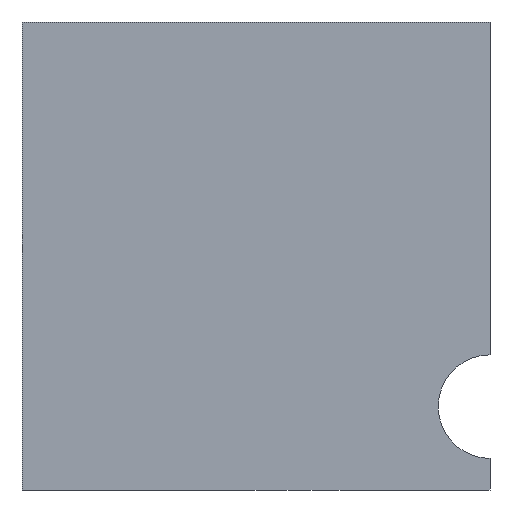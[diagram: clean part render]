
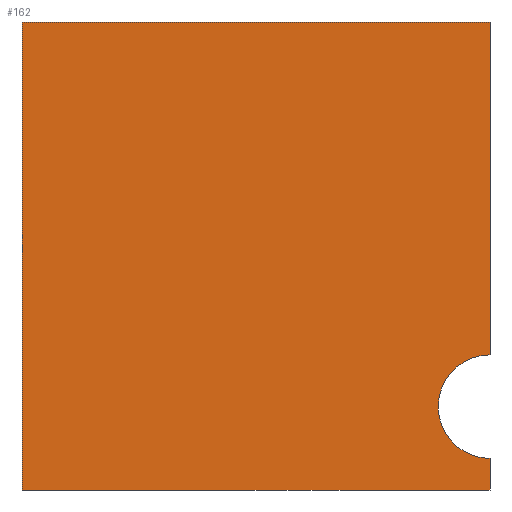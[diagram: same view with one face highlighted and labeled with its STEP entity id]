
A CAD part, left-side view. The second image highlights one B-rep face of the part: STEP entity #162.
In plain terms, the highlighted planar face has unit normal (-1, 0, 0).
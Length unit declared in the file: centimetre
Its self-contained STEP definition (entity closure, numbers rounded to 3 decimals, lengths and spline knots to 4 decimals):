
#2 = LINE ( 'NONE', #36, #261 ) ;
#13 = DIRECTION ( 'NONE',  ( 0., 0., -1. ) ) ;
#17 = CARTESIAN_POINT ( 'NONE',  ( 0., 0., 1000. ) ) ;
#36 = CARTESIAN_POINT ( 'NONE',  ( 0., 1000., 0. ) ) ;
#38 = VECTOR ( 'NONE', #75, 100. ) ;
#39 = EDGE_CURVE ( 'NONE', #330, #180, #2, .T. ) ;
#44 = CARTESIAN_POINT ( 'NONE',  ( 0., 0., 1000. ) ) ;
#47 = CARTESIAN_POINT ( 'NONE',  ( 0., 1000., 1000. ) ) ;
#48 = DIRECTION ( 'NONE',  ( 0., 0., -1. ) ) ;
#55 = AXIS2_PLACEMENT_3D ( 'NONE', #84, #158, #331 ) ;
#62 = DIRECTION ( 'NONE',  ( -1., 0., 0. ) ) ;
#65 = VECTOR ( 'NONE', #48, 100. ) ;
#67 = EDGE_CURVE ( 'NONE', #83, #212, #319, .T. ) ;
#75 = DIRECTION ( 'NONE',  ( 0., -1., 0. ) ) ;
#81 = EDGE_LOOP ( 'NONE', ( #221, #380, #213, #237, #312, #269 ) ) ;
#83 = VERTEX_POINT ( 'NONE', #382 ) ;
#84 = CARTESIAN_POINT ( 'NONE',  ( 0., 1000., 1000. ) ) ;
#89 = CARTESIAN_POINT ( 'NONE',  ( 0., 0., 67.5277 ) ) ;
#98 = PLANE ( 'NONE',  #55 ) ;
#99 = CARTESIAN_POINT ( 'NONE',  ( 0., 0., 0. ) ) ;
#111 = LINE ( 'NONE', #44, #290 ) ;
#138 = AXIS2_PLACEMENT_3D ( 'NONE', #256, #62, #195 ) ;
#153 = LINE ( 'NONE', #207, #38 ) ;
#155 = FACE_OUTER_BOUND ( 'NONE', #81, .T. ) ;
#158 = DIRECTION ( 'NONE',  ( 1., 0., 0. ) ) ;
#159 = DIRECTION ( 'NONE',  ( 0., 0., -1. ) ) ;
#162 = ADVANCED_FACE ( 'NONE', ( #155 ), #98, .F. ) ;
#170 = EDGE_CURVE ( 'NONE', #279, #330, #370, .T. ) ;
#180 = VERTEX_POINT ( 'NONE', #99 ) ;
#185 = VERTEX_POINT ( 'NONE', #282 ) ;
#195 = DIRECTION ( 'NONE',  ( 0., 0., 1. ) ) ;
#202 = DIRECTION ( 'NONE',  ( 0., -1., 0. ) ) ;
#207 = CARTESIAN_POINT ( 'NONE',  ( 0., 1000., 1000. ) ) ;
#210 = LINE ( 'NONE', #17, #65 ) ;
#212 = VERTEX_POINT ( 'NONE', #89 ) ;
#213 = ORIENTED_EDGE ( 'NONE', *, *, #259, .F. ) ;
#221 = ORIENTED_EDGE ( 'NONE', *, *, #291, .F. ) ;
#237 = ORIENTED_EDGE ( 'NONE', *, *, #248, .F. ) ;
#244 = CARTESIAN_POINT ( 'NONE',  ( 0., 1000., 1000. ) ) ;
#248 = EDGE_CURVE ( 'NONE', #279, #185, #153, .T. ) ;
#250 = VECTOR ( 'NONE', #159, 100. ) ;
#256 = CARTESIAN_POINT ( 'NONE',  ( 0., 0., 178.1266 ) ) ;
#259 = EDGE_CURVE ( 'NONE', #185, #83, #111, .T. ) ;
#261 = VECTOR ( 'NONE', #202, 100. ) ;
#269 = ORIENTED_EDGE ( 'NONE', *, *, #39, .T. ) ;
#279 = VERTEX_POINT ( 'NONE', #244 ) ;
#282 = CARTESIAN_POINT ( 'NONE',  ( 0., 0., 1000. ) ) ;
#290 = VECTOR ( 'NONE', #13, 100. ) ;
#291 = EDGE_CURVE ( 'NONE', #212, #180, #210, .T. ) ;
#312 = ORIENTED_EDGE ( 'NONE', *, *, #170, .T. ) ;
#319 = CIRCLE ( 'NONE', #138, 110.5988 ) ;
#330 = VERTEX_POINT ( 'NONE', #394 ) ;
#331 = DIRECTION ( 'NONE',  ( 0., 0., -1. ) ) ;
#370 = LINE ( 'NONE', #47, #250 ) ;
#380 = ORIENTED_EDGE ( 'NONE', *, *, #67, .F. ) ;
#382 = CARTESIAN_POINT ( 'NONE',  ( 0., 0., 288.7254 ) ) ;
#394 = CARTESIAN_POINT ( 'NONE',  ( 0., 1000., 0. ) ) ;
